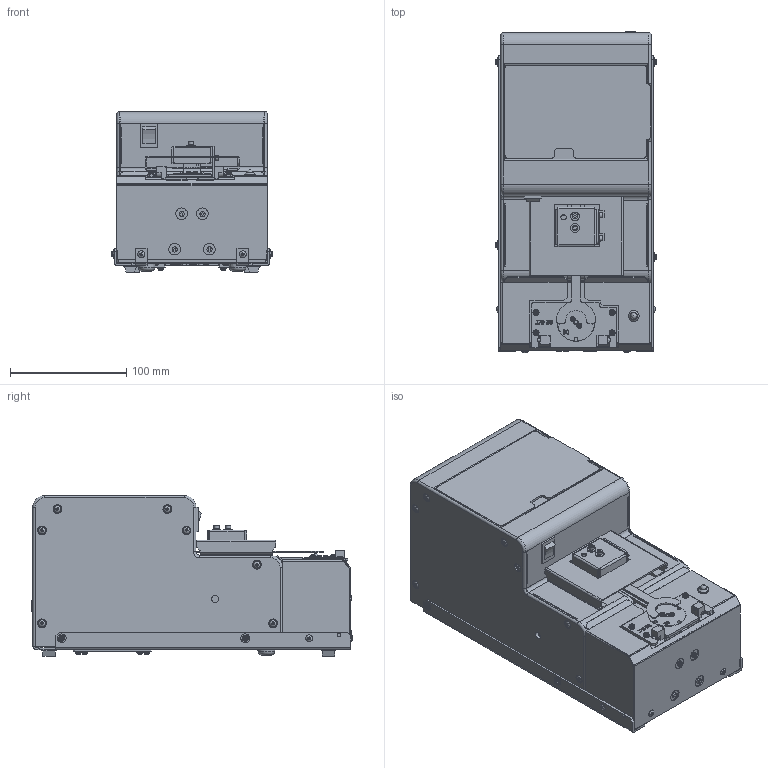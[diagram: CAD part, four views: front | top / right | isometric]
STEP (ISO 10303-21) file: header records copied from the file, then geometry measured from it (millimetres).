
FILE_DESCRIPTION((''),'2;1');
FILE_NAME('F:\技術メモ\230420_NJRエスケーパ検討(NJRI-B)\量産図面\NJR00080_供給機ﾕﾆｯﾄ：NJRI-B_Shrinkwrap_1.stp','2024-07-11T16:59:33',(''),('OHTAKE'),'Autodesk Inventor 2013','Autodesk Inventor 2013','');
FILE_SCHEMA(('CONFIG_CONTROL_DESIGN'));
Length unit declared in the file: millimetre
Products named in the file (1): NJR00080_供給機ﾕﾆｯﾄ：NJRI-B_Shrinkwrap_1
Bounding box: 138.95 x 276.81 x 138.57 mm (x, y, z)
Volume: 3638174.8 mm3; surface area: 381145.6 mm2
Topology: 3 solids, 11 shells, 2780 faces, 7303 edges, 4798 vertices
Faces by surface type: plane 1928, cylinder 650, bspline 100, sphere 50, torus 44, cone 8
Full cylindrical faces by diameter (mm): 0.3 x1, 1 x4, 1.2 x2, 1.5 x4, 1.6 x2, 1.7 x2, 2.113 x13, 2.5 x2, 2.6 x41, 2.7 x6, 2.9 x17, 3 x19, 3.2 x3, 3.5 x6, 4 x6, 4.3 x2, 4.4 x2, 4.5 x44, 5 x9, 5.2 x29, 5.9 x18, 6 x8, 6.1 x1, 6.5 x4, 6.6 x1, 7 x1, 7.5 x44, 7.8 x1, 8 x1, 8.1 x1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
Entity records: 86788 total; most frequent: CARTESIAN_POINT 15982, DIRECTION 14050, ORIENTED_EDGE 13760, EDGE_CURVE 6880, VERTEX_POINT 4717, AXIS2_PLACEMENT_3D 4697, VECTOR 4656, LINE 4656
